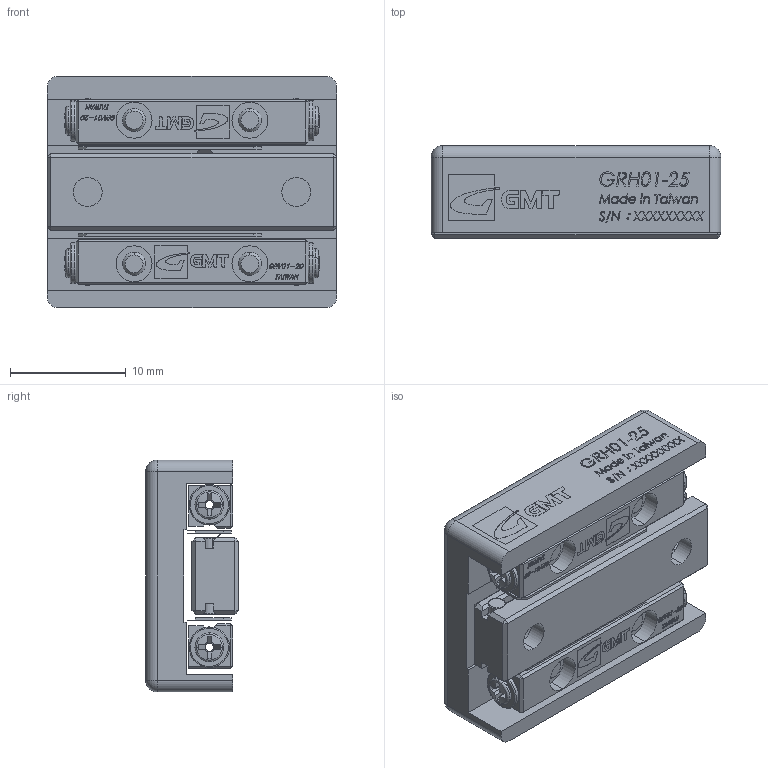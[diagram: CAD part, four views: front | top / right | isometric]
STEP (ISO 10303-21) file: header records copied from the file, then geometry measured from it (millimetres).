
FILE_DESCRIPTION (( 'STEP AP203' ), '1' );
FILE_NAME ('GRH20-25.STEP', '2012-10-20T08:20:13', ( '123' ), ( '' ), 'SwSTEP 2.0', 'SolidWorks 2012', '' );
FILE_SCHEMA (( 'CONFIG_CONTROL_DESIGN' ));
Products named in the file (1): GRH20-25
Bounding box: 25 x 8 x 20 mm (x, y, z)
Surface area: 3334.4 mm2 (no closed solid volume)
Topology: 0 solids, 31 shells, 997 faces, 4638 edges, 3453 vertices
Faces by surface type: plane 698, cylinder 144, bspline 67, torus 40, cone 36, sphere 12
Entity records: 52607 total; most frequent: CARTESIAN_POINT 17562, ORIENTED_EDGE 6668, DIRECTION 6470, EDGE_CURVE 4626, VERTEX_POINT 3453, VECTOR 3184, LINE 3184, AXIS2_PLACEMENT_3D 1643
